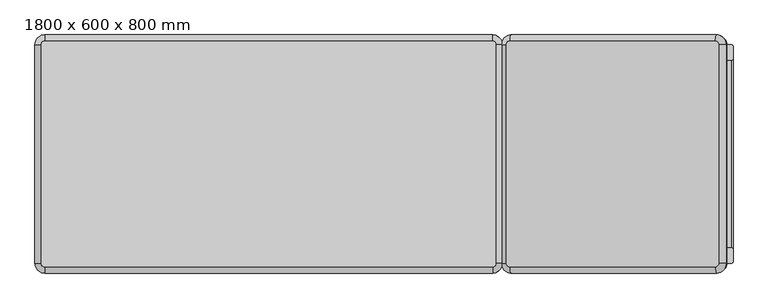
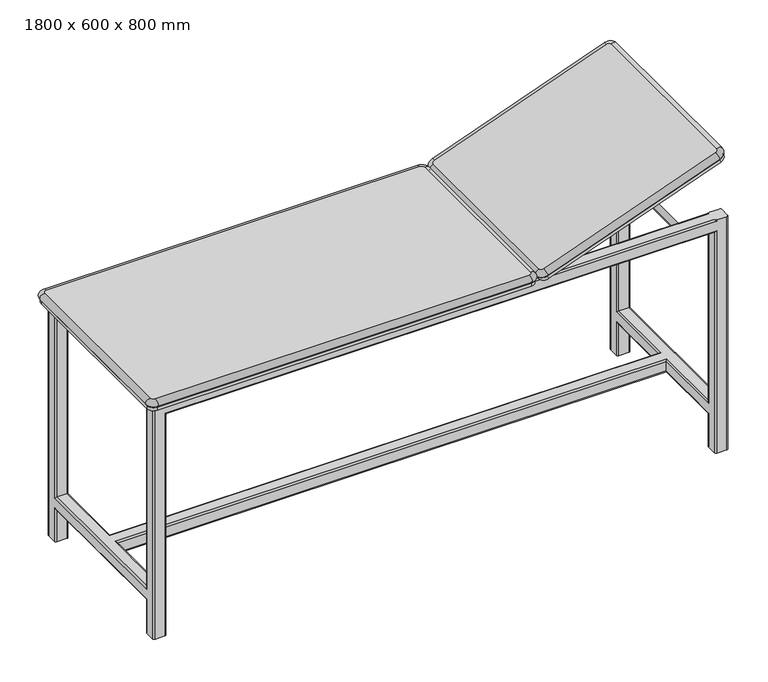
"""IFC4 building model written with IfcOpenShell, lengths in millimetres: furniture geometry, Table d'examen : 1800 x 600 x 800 mm."""

from ifc_helpers import new_model, si_unit, point, frame, frame_2d, origin, place, context, project, spatial, polyline, circle_curve, ellipse_curve, trimmed, segment, composite_curve, outline, extrude, source, transform, mapped, element, save
from ifc_brep_helpers import plane_surface, cylinder_surface, revolved_surface, extruded_surface, advanced_brep


def furniture_1800_x_600_x_800_mm_1ba1c7d4(model_context):
    return source(origin(), model_context, "Body", "SolidModel", [
        advanced_brep(
        [(919.7003264, -20.0, 770.0), (889.7003264, -20.0, 770.0), (884.7003264, -25.0, 770.0), (-795.2996736, -25.0, 770.0), (-800.2996736, -20.0, 770.0), (-830.2996736, -20.0, 770.0), (-835.2996736, -25.0, 770.0), (-835.2996736, -55.0, 770.0), (-830.2996736, -60.0, 770.0), (-800.2996736, -60.0, 770.0), (-795.2996736, -55.0, 770.0), (884.7003264, -55.0, 770.0), (889.7003264, -60.0, 770.0), (919.7003264, -60.0, 770.0), (924.7003264, -55.0, 770.0), (924.7003264, -25.0, 770.0), (919.7003264, -580.0, 770.0), (924.7003264, -575.0, 770.0), (924.7003264, -545.0, 770.0), (919.7003264, -540.0, 770.0), (889.7003264, -540.0, 770.0), (884.7003264, -545.0, 770.0), (-795.2996736, -545.0, 770.0), (-800.2996736, -540.0, 770.0), (-830.2996736, -540.0, 770.0), (-835.2996736, -545.0, 770.0), (-835.2996736, -575.0, 770.0), (-830.2996736, -580.0, 770.0), (-800.2996736, -580.0, 770.0), (-795.2996736, -575.0, 770.0), (884.7003264, -575.0, 770.0), (889.7003264, -580.0, 770.0), (-800.2996736, -20.0, 15.0), (-795.2996736, -25.0, 15.0), (-795.2996736, -55.0, 15.0), (-800.2996736, -60.0, 15.0), (-830.2996736, -60.0, 15.0), (-835.2996736, -55.0, 15.0), (-835.2996736, -25.0, 15.0), (-830.2996736, -20.0, 15.0), (919.7003264, -20.0, 15.0), (924.7003264, -25.0, 15.0), (924.7003264, -55.0, 15.0), (919.7003264, -60.0, 15.0), (889.7003264, -60.0, 15.0), (884.7003264, -55.0, 15.0), (884.7003264, -25.0, 15.0), (889.7003264, -20.0, 15.0), (919.7003264, -580.0, 15.0), (889.7003264, -580.0, 15.0), (884.7003264, -575.0, 15.0), (884.7003264, -545.0, 15.0), (889.7003264, -540.0, 15.0), (919.7003264, -540.0, 15.0), (924.7003264, -545.0, 15.0), (924.7003264, -575.0, 15.0), (-800.2996736, -580.0, 15.0), (-830.2996736, -580.0, 15.0), (-835.2996736, -575.0, 15.0), (-835.2996736, -545.0, 15.0), (-830.2996736, -540.0, 15.0), (-800.2996736, -540.0, 15.0), (-795.2996736, -545.0, 15.0), (-795.2996736, -575.0, 15.0), (-800.2996736, -20.0, 765.0), (889.7003264, -20.0, 765.0), (889.7003264, -20.0, 735.0), (-800.2996736, -20.0, 735.0), (-835.2996736, -55.0, 125.0), (-835.2996736, -545.0, 125.0), (-835.2996736, -545.0, 155.0), (-835.2996736, -55.0, 155.0), (-830.2996736, -60.0, 160.0), (-830.2996736, -60.0, 120.0), (-800.2996736, -60.0, 160.0), (-800.2996736, -60.0, 735.0), (889.7003264, -60.0, 735.0), (889.7003264, -60.0, 160.0), (919.7003264, -60.0, 160.0), (889.7003264, -60.0, 765.0), (-800.2996736, -60.0, 765.0), (-800.2996736, -60.0, 120.0), (919.7003264, -60.0, 120.0), (889.7003264, -60.0, 120.0), (-795.2996736, -55.0, 125.0), (-795.2996736, -55.0, 155.0), (-795.2996736, -55.0, 730.0), (-795.2996736, -25.0, 730.0), (-795.2996736, -280.0, 155.0), (-795.2996736, -280.0, 125.0), (-795.2996736, -545.0, 125.0), (-795.2996736, -320.0, 125.0), (-795.2996736, -320.0, 155.0), (-795.2996736, -545.0, 155.0), (-795.2996736, -545.0, 730.0), (-795.2996736, -575.0, 730.0), (884.7003264, -25.0, 730.0), (884.7003264, -55.0, 125.0), (884.7003264, -280.0, 125.0), (884.7003264, -280.0, 155.0), (884.7003264, -55.0, 155.0), (884.7003264, -55.0, 730.0), (884.7003264, -575.0, 730.0), (884.7003264, -545.0, 730.0), (884.7003264, -545.0, 155.0), (884.7003264, -320.0, 155.0), (884.7003264, -320.0, 125.0), (884.7003264, -545.0, 125.0), (924.7003264, -55.0, 155.0), (924.7003264, -55.0, 125.0), (924.7003264, -545.0, 155.0), (924.7003264, -545.0, 125.0), (919.7003264, -540.0, 160.0), (919.7003264, -540.0, 120.0), (889.7003264, -540.0, 160.0), (889.7003264, -540.0, 735.0), (-800.2996736, -540.0, 735.0), (-800.2996736, -540.0, 160.0), (-830.2996736, -540.0, 160.0), (-800.2996736, -540.0, 765.0), (889.7003264, -540.0, 765.0), (889.7003264, -540.0, 120.0), (-830.2996736, -540.0, 120.0), (-800.2996736, -540.0, 120.0), (889.7003264, -580.0, 765.0), (889.7003264, -580.0, 735.0), (-800.2996736, -580.0, 765.0), (-800.2996736, -580.0, 735.0), (-800.2996736, -285.0, 120.0), (889.7003264, -285.0, 120.0), (889.7003264, -315.0, 120.0), (-800.2996736, -315.0, 120.0), (-800.2996736, -315.0, 160.0), (889.7003264, -315.0, 160.0), (889.7003264, -285.0, 160.0), (-800.2996736, -285.0, 160.0)],
        [
            (0, 1),
            (1, 2, circle_curve(frame((889.7003264, -25.0, 770.0), z_axis=(0.0, 0.0, 1.0), x_axis=(-1.0, 0.0, 0.0)), 5.0)),
            (2, 3),
            (3, 4, circle_curve(frame((-800.2996736, -25.0, 770.0), z_axis=(0.0, 0.0, 1.0), x_axis=(-1.0, 0.0, 0.0)), 5.0)),
            (4, 5),
            (5, 6, circle_curve(frame((-830.2996736, -25.0, 770.0), z_axis=(0.0, 0.0, 1.0), x_axis=(-1.0, 0.0, 0.0)), 5.0)),
            (6, 7),
            (7, 8, circle_curve(frame((-830.2996736, -55.0, 770.0), z_axis=(0.0, 0.0, 1.0), x_axis=(-1.0, 0.0, 0.0)), 5.0)),
            (8, 9),
            (9, 10, circle_curve(frame((-800.2996736, -55.0, 770.0), z_axis=(0.0, 0.0, 1.0), x_axis=(-1.0, 0.0, 0.0)), 5.0)),
            (10, 11),
            (11, 12, circle_curve(frame((889.7003264, -55.0, 770.0), z_axis=(0.0, 0.0, 1.0), x_axis=(-1.0, 0.0, 0.0)), 5.0)),
            (12, 13),
            (13, 14, circle_curve(frame((919.7003264, -55.0, 770.0), z_axis=(0.0, 0.0, 1.0), x_axis=(-1.0, 0.0, 0.0)), 5.0)),
            (14, 15),
            (15, 0, circle_curve(frame((919.7003264, -25.0, 770.0), z_axis=(0.0, 0.0, 1.0), x_axis=(-1.0, 0.0, 0.0)), 5.0)),
            (16, 17, circle_curve(frame((919.7003264, -575.0, 770.0), z_axis=(0.0, 0.0, 1.0), x_axis=(-1.0, 0.0, 0.0)), 5.0)),
            (17, 18),
            (18, 19, circle_curve(frame((919.7003264, -545.0, 770.0), z_axis=(0.0, 0.0, 1.0), x_axis=(-1.0, 0.0, 0.0)), 5.0)),
            (19, 20),
            (20, 21, circle_curve(frame((889.7003264, -545.0, 770.0), z_axis=(0.0, 0.0, 1.0), x_axis=(-1.0, 0.0, 0.0)), 5.0)),
            (21, 22),
            (22, 23, circle_curve(frame((-800.2996736, -545.0, 770.0), z_axis=(0.0, 0.0, 1.0), x_axis=(-1.0, 0.0, 0.0)), 5.0)),
            (23, 24),
            (24, 25, circle_curve(frame((-830.2996736, -545.0, 770.0), z_axis=(0.0, 0.0, 1.0), x_axis=(-1.0, 0.0, 0.0)), 5.0)),
            (25, 26),
            (26, 27, circle_curve(frame((-830.2996736, -575.0, 770.0), z_axis=(0.0, 0.0, 1.0), x_axis=(-1.0, 0.0, 0.0)), 5.0)),
            (27, 28),
            (28, 29, circle_curve(frame((-800.2996736, -575.0, 770.0), z_axis=(0.0, 0.0, 1.0), x_axis=(-1.0, 0.0, 0.0)), 5.0)),
            (29, 30),
            (30, 31, circle_curve(frame((889.7003264, -575.0, 770.0), z_axis=(0.0, 0.0, 1.0), x_axis=(-1.0, 0.0, 0.0)), 5.0)),
            (31, 16),
            (32, 33, circle_curve(frame((-800.2996736, -25.0, 15.0), z_axis=(0.0, 0.0, -1.0), x_axis=(-1.0, 0.0, 0.0)), 5.0)),
            (33, 34),
            (34, 35, circle_curve(frame((-800.2996736, -55.0, 15.0), z_axis=(0.0, 0.0, -1.0), x_axis=(-1.0, 0.0, 0.0)), 5.0)),
            (35, 36),
            (36, 37, circle_curve(frame((-830.2996736, -55.0, 15.0), z_axis=(0.0, 0.0, -1.0), x_axis=(-1.0, 0.0, 0.0)), 5.0)),
            (37, 38),
            (38, 39, circle_curve(frame((-830.2996736, -25.0, 15.0), z_axis=(0.0, 0.0, -1.0), x_axis=(-1.0, 0.0, 0.0)), 5.0)),
            (39, 32),
            (40, 41, circle_curve(frame((919.7003264, -25.0, 15.0), z_axis=(0.0, 0.0, -1.0), x_axis=(-1.0, 0.0, 0.0)), 5.0)),
            (41, 42),
            (42, 43, circle_curve(frame((919.7003264, -55.0, 15.0), z_axis=(0.0, 0.0, -1.0), x_axis=(-1.0, 0.0, 0.0)), 5.0)),
            (43, 44),
            (44, 45, circle_curve(frame((889.7003264, -55.0, 15.0), z_axis=(0.0, 0.0, -1.0), x_axis=(-1.0, 0.0, 0.0)), 5.0)),
            (45, 46),
            (46, 47, circle_curve(frame((889.7003264, -25.0, 15.0), z_axis=(0.0, 0.0, -1.0), x_axis=(-1.0, 0.0, 0.0)), 5.0)),
            (47, 40),
            (48, 49),
            (49, 50, circle_curve(frame((889.7003264, -575.0, 15.0), z_axis=(0.0, 0.0, -1.0), x_axis=(-1.0, 0.0, 0.0)), 5.0)),
            (50, 51),
            (51, 52, circle_curve(frame((889.7003264, -545.0, 15.0), z_axis=(0.0, 0.0, -1.0), x_axis=(-1.0, 0.0, 0.0)), 5.0)),
            (52, 53),
            (53, 54, circle_curve(frame((919.7003264, -545.0, 15.0), z_axis=(0.0, 0.0, -1.0), x_axis=(-1.0, 0.0, 0.0)), 5.0)),
            (54, 55),
            (55, 48, circle_curve(frame((919.7003264, -575.0, 15.0), z_axis=(0.0, 0.0, -1.0), x_axis=(-1.0, 0.0, 0.0)), 5.0)),
            (56, 57),
            (57, 58, circle_curve(frame((-830.2996736, -575.0, 15.0), z_axis=(0.0, 0.0, -1.0), x_axis=(-1.0, 0.0, 0.0)), 5.0)),
            (58, 59),
            (59, 60, circle_curve(frame((-830.2996736, -545.0, 15.0), z_axis=(0.0, 0.0, -1.0), x_axis=(-1.0, 0.0, 0.0)), 5.0)),
            (60, 61),
            (61, 62, circle_curve(frame((-800.2996736, -545.0, 15.0), z_axis=(0.0, 0.0, -1.0), x_axis=(-1.0, 0.0, 0.0)), 5.0)),
            (62, 63),
            (63, 56, circle_curve(frame((-800.2996736, -575.0, 15.0), z_axis=(0.0, 0.0, -1.0), x_axis=(-1.0, 0.0, 0.0)), 5.0)),
            (4, 64),
            (64, 65),
            (65, 1),
            (0, 40),
            (47, 66),
            (66, 67),
            (67, 32),
            (39, 5),
            (38, 6),
            (37, 68),
            (68, 69),
            (69, 59),
            (58, 26),
            (25, 70),
            (70, 71),
            (71, 7),
            (71, 72, ellipse_curve(frame((-830.2996736, -55.0, 155.0), z_axis=(0.0, 0.7071067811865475, 0.7071067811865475), x_axis=(0.0, -0.7071067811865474, 0.7071067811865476)), 7.0710678, 5.0)),
            (72, 8),
            (36, 73),
            (73, 68, ellipse_curve(frame((-830.2996736, -55.0, 125.0), z_axis=(0.0, 0.7071067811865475, -0.7071067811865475), x_axis=(0.0, 0.7071067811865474, 0.7071067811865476)), 7.0710678, 5.0)),
            (72, 74),
            (74, 75),
            (75, 76),
            (76, 77),
            (77, 78),
            (78, 13),
            (12, 79),
            (79, 80),
            (80, 9),
            (35, 81),
            (81, 73),
            (43, 82),
            (82, 83),
            (83, 44),
            (80, 10, ellipse_curve(frame((-800.2996736, -55.0, 765.0), z_axis=(-0.7071067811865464, 0.0, 0.7071067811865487), x_axis=(0.7071067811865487, 0.0, 0.7071067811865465)), 7.0710678, 5.0)),
            (34, 84),
            (84, 81, ellipse_curve(frame((-800.2996736, -55.0, 125.0), z_axis=(0.0, 0.7071067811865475, -0.7071067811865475), x_axis=(0.0, 0.7071067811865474, 0.7071067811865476)), 7.0710678, 5.0)),
            (74, 85, ellipse_curve(frame((-800.2996736, -55.0, 155.0), z_axis=(0.0, 0.7071067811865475, 0.7071067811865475), x_axis=(0.0, -0.7071067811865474, 0.7071067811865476)), 7.0710678, 5.0)),
            (85, 86),
            (86, 75, ellipse_curve(frame((-800.2996736, -55.0, 735.0), z_axis=(-0.7071067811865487, 0.0, -0.7071067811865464), x_axis=(-0.7071067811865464, 0.0, 0.7071067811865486)), 7.0710678, 5.0)),
            (33, 87),
            (87, 86),
            (85, 88),
            (88, 89),
            (89, 84),
            (62, 90),
            (90, 91),
            (91, 92),
            (92, 93),
            (93, 94),
            (94, 95),
            (95, 63),
            (3, 64, ellipse_curve(frame((-800.2996736, -25.0, 765.0), z_axis=(-0.7071067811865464, 0.0, 0.7071067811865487), x_axis=(0.7071067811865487, 0.0, 0.7071067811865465)), 7.0710678, 5.0)),
            (67, 87, ellipse_curve(frame((-800.2996736, -25.0, 735.0), z_axis=(-0.7071067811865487, 0.0, -0.7071067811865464), x_axis=(-0.7071067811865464, 0.0, 0.7071067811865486)), 7.0710678, 5.0)),
            (65, 2, ellipse_curve(frame((889.7003264, -25.0, 765.0), z_axis=(0.7071067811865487, 0.0, 0.7071067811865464), x_axis=(-0.7071067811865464, 0.0, 0.7071067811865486)), 7.0710678, 5.0)),
            (46, 96),
            (96, 66, ellipse_curve(frame((889.7003264, -25.0, 735.0), z_axis=(0.7071067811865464, 0.0, -0.7071067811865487), x_axis=(0.7071067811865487, 0.0, 0.7071067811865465)), 7.0710678, 5.0)),
            (45, 97),
            (97, 98),
            (98, 99),
            (99, 100),
            (100, 101),
            (101, 96),
            (50, 102),
            (102, 103),
            (103, 104),
            (104, 105),
            (105, 106),
            (106, 107),
            (107, 51),
            (11, 79, ellipse_curve(frame((889.7003264, -55.0, 765.0), z_axis=(0.7071067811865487, 0.0, 0.7071067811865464), x_axis=(-0.7071067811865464, 0.0, 0.7071067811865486)), 7.0710678, 5.0)),
            (83, 97, ellipse_curve(frame((889.7003264, -55.0, 125.0), z_axis=(0.0, 0.7071067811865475, -0.7071067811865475), x_axis=(0.0, 0.7071067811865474, 0.7071067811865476)), 7.0710678, 5.0)),
            (100, 77, ellipse_curve(frame((889.7003264, -55.0, 155.0), z_axis=(0.0, 0.7071067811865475, 0.7071067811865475), x_axis=(0.0, -0.7071067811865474, 0.7071067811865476)), 7.0710678, 5.0)),
            (76, 101, ellipse_curve(frame((889.7003264, -55.0, 735.0), z_axis=(0.7071067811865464, 0.0, -0.7071067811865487), x_axis=(0.7071067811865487, 0.0, 0.7071067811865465)), 7.0710678, 5.0)),
            (78, 108, ellipse_curve(frame((919.7003264, -55.0, 155.0), z_axis=(0.0, 0.7071067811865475, 0.7071067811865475), x_axis=(0.0, -0.7071067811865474, 0.7071067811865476)), 7.0710678, 5.0)),
            (108, 14),
            (42, 109),
            (109, 82, ellipse_curve(frame((919.7003264, -55.0, 125.0), z_axis=(0.0, 0.7071067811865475, -0.7071067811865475), x_axis=(0.0, 0.7071067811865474, 0.7071067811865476)), 7.0710678, 5.0)),
            (108, 110),
            (110, 18),
            (17, 55),
            (54, 111),
            (111, 109),
            (41, 15),
            (16, 48),
            (110, 112, ellipse_curve(frame((919.7003264, -545.0, 155.0), z_axis=(0.0, -0.7071067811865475, 0.7071067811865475), x_axis=(0.0, 0.7071067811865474, 0.7071067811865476)), 7.0710678, 5.0)),
            (112, 19),
            (53, 113),
            (113, 111, ellipse_curve(frame((919.7003264, -545.0, 125.0), z_axis=(0.0, -0.7071067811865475, -0.7071067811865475), x_axis=(0.0, -0.7071067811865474, 0.7071067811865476)), 7.0710678, 5.0)),
            (112, 114),
            (114, 115),
            (115, 116),
            (116, 117),
            (117, 118),
            (118, 24),
            (23, 119),
            (119, 120),
            (120, 20),
            (52, 121),
            (121, 113),
            (60, 122),
            (122, 123),
            (123, 61),
            (120, 21, ellipse_curve(frame((889.7003264, -545.0, 765.0), z_axis=(0.7071067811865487, 0.0, 0.7071067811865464), x_axis=(-0.7071067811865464, 0.0, 0.7071067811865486)), 7.0710678, 5.0)),
            (107, 121, ellipse_curve(frame((889.7003264, -545.0, 125.0), z_axis=(0.0, -0.7071067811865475, -0.7071067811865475), x_axis=(0.0, -0.7071067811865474, 0.7071067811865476)), 7.0710678, 5.0)),
            (114, 104, ellipse_curve(frame((889.7003264, -545.0, 155.0), z_axis=(0.0, -0.7071067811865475, 0.7071067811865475), x_axis=(0.0, 0.7071067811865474, 0.7071067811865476)), 7.0710678, 5.0)),
            (103, 115, ellipse_curve(frame((889.7003264, -545.0, 735.0), z_axis=(0.7071067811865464, 0.0, -0.7071067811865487), x_axis=(0.7071067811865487, 0.0, 0.7071067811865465)), 7.0710678, 5.0)),
            (30, 124, ellipse_curve(frame((889.7003264, -575.0, 765.0), z_axis=(0.7071067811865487, 0.0, 0.7071067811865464), x_axis=(-0.7071067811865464, 0.0, 0.7071067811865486)), 7.0710678, 5.0)),
            (124, 31),
            (49, 125),
            (125, 102, ellipse_curve(frame((889.7003264, -575.0, 735.0), z_axis=(0.7071067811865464, 0.0, -0.7071067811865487), x_axis=(0.7071067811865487, 0.0, 0.7071067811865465)), 7.0710678, 5.0)),
            (124, 126),
            (126, 28),
            (27, 57),
            (56, 127),
            (127, 125),
            (126, 29, ellipse_curve(frame((-800.2996736, -575.0, 765.0), z_axis=(-0.7071067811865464, 0.0, 0.7071067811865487), x_axis=(0.7071067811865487, 0.0, 0.7071067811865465)), 7.0710678, 5.0)),
            (95, 127, ellipse_curve(frame((-800.2996736, -575.0, 735.0), z_axis=(-0.7071067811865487, 0.0, -0.7071067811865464), x_axis=(-0.7071067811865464, 0.0, 0.7071067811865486)), 7.0710678, 5.0)),
            (22, 119, ellipse_curve(frame((-800.2996736, -545.0, 765.0), z_axis=(-0.7071067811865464, 0.0, 0.7071067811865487), x_axis=(0.7071067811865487, 0.0, 0.7071067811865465)), 7.0710678, 5.0)),
            (123, 90, ellipse_curve(frame((-800.2996736, -545.0, 125.0), z_axis=(0.0, -0.7071067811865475, -0.7071067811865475), x_axis=(0.0, -0.7071067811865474, 0.7071067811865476)), 7.0710678, 5.0)),
            (93, 117, ellipse_curve(frame((-800.2996736, -545.0, 155.0), z_axis=(0.0, -0.7071067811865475, 0.7071067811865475), x_axis=(0.0, 0.7071067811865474, 0.7071067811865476)), 7.0710678, 5.0)),
            (116, 94, ellipse_curve(frame((-800.2996736, -545.0, 735.0), z_axis=(-0.7071067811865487, 0.0, -0.7071067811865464), x_axis=(-0.7071067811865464, 0.0, 0.7071067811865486)), 7.0710678, 5.0)),
            (118, 70, ellipse_curve(frame((-830.2996736, -545.0, 155.0), z_axis=(0.0, -0.7071067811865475, 0.7071067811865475), x_axis=(0.0, 0.7071067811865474, 0.7071067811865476)), 7.0710678, 5.0)),
            (69, 122, ellipse_curve(frame((-830.2996736, -545.0, 125.0), z_axis=(0.0, -0.7071067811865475, -0.7071067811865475), x_axis=(0.0, -0.7071067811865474, 0.7071067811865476)), 7.0710678, 5.0)),
            (122, 73),
            (81, 128),
            (128, 129),
            (129, 83),
            (82, 113),
            (121, 130),
            (130, 131),
            (131, 123),
            (118, 72),
            (117, 132),
            (132, 133),
            (133, 114),
            (112, 78),
            (77, 134),
            (134, 135),
            (135, 74),
            (135, 88, ellipse_curve(frame((-800.2996736, -285.0, 155.0), z_axis=(-0.7071067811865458, 0.707106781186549, 0.0), x_axis=(0.7071067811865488, 0.7071067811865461, 0.0)), 7.0710678, 5.0)),
            (92, 132, ellipse_curve(frame((-800.2996736, -315.0, 155.0), z_axis=(-0.7071067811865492, -0.7071067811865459, 0.0), x_axis=(-0.7071067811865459, 0.707106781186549, 0.0)), 7.0710678, 5.0)),
            (89, 128, ellipse_curve(frame((-800.2996736, -285.0, 125.0), z_axis=(-0.7071067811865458, 0.707106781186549, 0.0), x_axis=(0.7071067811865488, 0.7071067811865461, 0.0)), 7.0710678, 5.0)),
            (131, 91, ellipse_curve(frame((-800.2996736, -315.0, 125.0), z_axis=(-0.7071067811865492, -0.7071067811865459, 0.0), x_axis=(-0.7071067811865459, 0.707106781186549, 0.0)), 7.0710678, 5.0)),
            (129, 98, ellipse_curve(frame((889.7003264, -285.0, 125.0), z_axis=(0.7071067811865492, 0.7071067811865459, 0.0), x_axis=(-0.7071067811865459, 0.707106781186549, 0.0)), 7.0710678, 5.0)),
            (106, 130, ellipse_curve(frame((889.7003264, -315.0, 125.0), z_axis=(0.7071067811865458, -0.707106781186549, 0.0), x_axis=(0.7071067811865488, 0.7071067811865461, 0.0)), 7.0710678, 5.0)),
            (99, 134, ellipse_curve(frame((889.7003264, -285.0, 155.0), z_axis=(0.7071067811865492, 0.7071067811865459, 0.0), x_axis=(-0.7071067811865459, 0.707106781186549, 0.0)), 7.0710678, 5.0)),
            (133, 105, ellipse_curve(frame((889.7003264, -315.0, 155.0), z_axis=(0.7071067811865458, -0.707106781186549, 0.0), x_axis=(0.7071067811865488, 0.7071067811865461, 0.0)), 7.0710678, 5.0)),
            (99, 88),
            (98, 89),
            (106, 91),
            (105, 92),
            (103, 94),
            (102, 95),
            (96, 87),
            (101, 86),
        ],
        [
            plane_surface(frame((-830.2996736, -20.0, 770.0), z_axis=(0.0, 0.0, 1.0), x_axis=(-1.0, 0.0, 0.0))),
            plane_surface(frame((-830.2996736, -20.0, 15.0), z_axis=(0.0, 0.0, -1.0), x_axis=(1.0, 0.0, 0.0))),
            plane_surface(frame((-800.2996736, -20.0, 770.0), z_axis=(0.0, 1.0, 0.0), x_axis=(0.0, 0.0, -1.0))),
            cylinder_surface(frame((-830.2996736, -25.0, 15.0), z_axis=(0.0, 0.0, 1.0), x_axis=(-1.0, 0.0, 0.0)), 5.0),
            plane_surface(frame((-835.2996736, -25.0, 770.0), z_axis=(-1.0, 0.0, 0.0), x_axis=(0.0, 0.0, -1.0))),
            cylinder_surface(frame((-830.2996736, -55.0, 15.0), z_axis=(0.0, 0.0, 1.0), x_axis=(-1.0, 0.0, 0.0)), 5.0),
            plane_surface(frame((-830.2996736, -60.0, 770.0), z_axis=(0.0, -1.0, 0.0), x_axis=(0.0, 0.0, -1.0))),
            cylinder_surface(frame((-800.2996736, -55.0, 15.0), z_axis=(0.0, 0.0, 1.0), x_axis=(-1.0, 0.0, 0.0)), 5.0),
            plane_surface(frame((-795.2996736, -55.0, 770.0), z_axis=(1.0, 0.0, 0.0), x_axis=(0.0, 0.0, -1.0))),
            cylinder_surface(frame((-800.2996736, -25.0, 15.0), z_axis=(0.0, 0.0, 1.0), x_axis=(-1.0, 0.0, 0.0)), 5.0),
            cylinder_surface(frame((889.7003264, -25.0, 15.0), z_axis=(0.0, 0.0, 1.0), x_axis=(-1.0, 0.0, 0.0)), 5.0),
            plane_surface(frame((884.7003264, -25.0, 770.0), z_axis=(-1.0, 0.0, 0.0), x_axis=(0.0, 0.0, -1.0))),
            cylinder_surface(frame((889.7003264, -55.0, 15.0), z_axis=(0.0, 0.0, 1.0), x_axis=(-1.0, 0.0, 0.0)), 5.0),
            cylinder_surface(frame((919.7003264, -55.0, 15.0), z_axis=(0.0, 0.0, 1.0), x_axis=(-1.0, 0.0, 0.0)), 5.0),
            plane_surface(frame((924.7003264, -55.0, 770.0), z_axis=(1.0, 0.0, 0.0), x_axis=(0.0, 0.0, -1.0))),
            cylinder_surface(frame((919.7003264, -25.0, 15.0), z_axis=(0.0, 0.0, 1.0), x_axis=(-1.0, 0.0, 0.0)), 5.0),
            cylinder_surface(frame((919.7003264, -575.0, 15.0), z_axis=(0.0, 0.0, 1.0), x_axis=(-1.0, 0.0, 0.0)), 5.0),
            cylinder_surface(frame((919.7003264, -545.0, 15.0), z_axis=(0.0, 0.0, 1.0), x_axis=(-1.0, 0.0, 0.0)), 5.0),
            plane_surface(frame((919.7003264, -540.0, 770.0), z_axis=(0.0, 1.0, 0.0), x_axis=(0.0, 0.0, -1.0))),
            cylinder_surface(frame((889.7003264, -545.0, 15.0), z_axis=(0.0, 0.0, 1.0), x_axis=(-1.0, 0.0, 0.0)), 5.0),
            cylinder_surface(frame((889.7003264, -575.0, 15.0), z_axis=(0.0, 0.0, 1.0), x_axis=(-1.0, 0.0, 0.0)), 5.0),
            plane_surface(frame((889.7003264, -580.0, 770.0), z_axis=(0.0, -1.0, 0.0), x_axis=(0.0, 0.0, -1.0))),
            cylinder_surface(frame((-800.2996736, -575.0, 15.0), z_axis=(0.0, 0.0, 1.0), x_axis=(-1.0, 0.0, 0.0)), 5.0),
            cylinder_surface(frame((-800.2996736, -545.0, 15.0), z_axis=(0.0, 0.0, 1.0), x_axis=(-1.0, 0.0, 0.0)), 5.0),
            cylinder_surface(frame((-830.2996736, -545.0, 15.0), z_axis=(0.0, 0.0, 1.0), x_axis=(-1.0, 0.0, 0.0)), 5.0),
            cylinder_surface(frame((-830.2996736, -575.0, 15.0), z_axis=(0.0, 0.0, 1.0), x_axis=(-1.0, 0.0, 0.0)), 5.0),
            plane_surface(frame((-800.2996736, -50.0, 120.0), z_axis=(0.0, 0.0, -1.0), x_axis=(0.0, -1.0, 0.0))),
            cylinder_surface(frame((-830.2996736, -550.0, 125.0), z_axis=(0.0, 1.0, 0.0), x_axis=(-1.0, 0.0, 0.0)), 5.0),
            cylinder_surface(frame((-830.2996736, -550.0, 155.0), z_axis=(0.0, 1.0, 0.0), x_axis=(-1.0, 0.0, 0.0)), 5.0),
            plane_surface(frame((-830.2996736, -50.0, 160.0), z_axis=(0.0, 0.0, 1.0), x_axis=(0.0, -1.0, 0.0))),
            cylinder_surface(frame((-800.2996736, -550.0, 155.0), z_axis=(0.0, 1.0, 0.0), x_axis=(-1.0, 0.0, 0.0)), 5.0),
            cylinder_surface(frame((-800.2996736, -550.0, 125.0), z_axis=(0.0, 1.0, 0.0), x_axis=(-1.0, 0.0, 0.0)), 5.0),
            cylinder_surface(frame((889.7003264, -50.0, 125.0), z_axis=(0.0, 1.0, 0.0), x_axis=(-1.0, 0.0, 0.0)), 5.0),
            cylinder_surface(frame((889.7003264, -50.0, 155.0), z_axis=(0.0, 1.0, 0.0), x_axis=(-1.0, 0.0, 0.0)), 5.0),
            cylinder_surface(frame((919.7003264, -50.0, 155.0), z_axis=(0.0, 1.0, 0.0), x_axis=(-1.0, 0.0, 0.0)), 5.0),
            cylinder_surface(frame((919.7003264, -50.0, 125.0), z_axis=(0.0, 1.0, 0.0), x_axis=(-1.0, 0.0, 0.0)), 5.0),
            cylinder_surface(frame((894.7003264, -285.0, 155.0), z_axis=(-1.0, 0.0, 0.0), x_axis=(0.0, -1.0, 0.0)), 5.0),
            plane_surface(frame((-805.2996736, -280.0, 155.0), z_axis=(0.0, 1.0, 0.0), x_axis=(1.0, 0.0, 0.0))),
            cylinder_surface(frame((894.7003264, -285.0, 125.0), z_axis=(-1.0, 0.0, 0.0), x_axis=(0.0, -1.0, 0.0)), 5.0),
            cylinder_surface(frame((894.7003264, -315.0, 125.0), z_axis=(-1.0, 0.0, 0.0), x_axis=(0.0, -1.0, 0.0)), 5.0),
            plane_surface(frame((-805.2996736, -320.0, 125.0), z_axis=(0.0, -1.0, 0.0), x_axis=(1.0, 0.0, 0.0))),
            cylinder_surface(frame((894.7003264, -315.0, 155.0), z_axis=(-1.0, 0.0, 0.0), x_axis=(0.0, -1.0, 0.0)), 5.0),
            cylinder_surface(frame((-805.2996736, -545.0, 765.0), z_axis=(-1.0, 0.0, 0.0), x_axis=(0.0, -1.0, 0.0)), 5.0),
            cylinder_surface(frame((-805.2996736, -545.0, 735.0), z_axis=(-1.0, 0.0, 0.0), x_axis=(0.0, -1.0, 0.0)), 5.0),
            plane_surface(frame((-805.2996736, -545.0, 730.0), z_axis=(0.0, 0.0, -1.0), x_axis=(1.0, 0.0, 0.0))),
            cylinder_surface(frame((-805.2996736, -575.0, 735.0), z_axis=(-1.0, 0.0, 0.0), x_axis=(0.0, -1.0, 0.0)), 5.0),
            cylinder_surface(frame((-805.2996736, -575.0, 765.0), z_axis=(-1.0, 0.0, 0.0), x_axis=(0.0, -1.0, 0.0)), 5.0),
            cylinder_surface(frame((-805.2996736, -25.0, 765.0), z_axis=(-1.0, 0.0, 0.0), x_axis=(0.0, -1.0, 0.0)), 5.0),
            cylinder_surface(frame((-805.2996736, -25.0, 735.0), z_axis=(-1.0, 0.0, 0.0), x_axis=(0.0, -1.0, 0.0)), 5.0),
            plane_surface(frame((-805.2996736, -25.0, 730.0), z_axis=(0.0, 0.0, -1.0), x_axis=(1.0, 0.0, 0.0))),
            cylinder_surface(frame((-805.2996736, -55.0, 735.0), z_axis=(-1.0, 0.0, 0.0), x_axis=(0.0, -1.0, 0.0)), 5.0),
            cylinder_surface(frame((-805.2996736, -55.0, 765.0), z_axis=(-1.0, 0.0, 0.0), x_axis=(0.0, -1.0, 0.0)), 5.0),
        ],
        [
            (0, [[1, 2, 3, 4, 5, 6, 7, 8, 9, 10, 11, 12, 13, 14, 15, 16]]),
            (0, [[17, 18, 19, 20, 21, 22, 23, 24, 25, 26, 27, 28, 29, 30, 31, 32]]),
            (1, [[33, 34, 35, 36, 37, 38, 39, 40]]),
            (1, [[41, 42, 43, 44, 45, 46, 47, 48]]),
            (1, [[49, 50, 51, 52, 53, 54, 55, 56]]),
            (1, [[57, 58, 59, 60, 61, 62, 63, 64]]),
            (2, [[-5, 65, 66, 67, -1, 68, -48, 69, 70, 71, -40, 72]]),
            (3, [[-6, -72, -39, 73]]),
            (4, [[-7, -73, -38, 74, 75, 76, -59, 77, -26, 78, 79, 80]]),
            (5, [[-8, -80, 81, 82]]),
            (5, [[-37, 83, 84, -74]]),
            (6, [[-9, -82, 85, 86, 87, 88, 89, 90, -13, 91, 92, 93]]),
            (6, [[-36, 94, 95, -83]]),
            (6, [[-44, 96, 97, 98]]),
            (7, [[-10, -93, 99]]),
            (7, [[-35, 100, 101, -94]]),
            (7, [[102, 103, 104, -86]]),
            (8, [[-34, 105, 106, -103, 107, 108, 109, -100]]),
            (8, [[-63, 110, 111, 112, 113, 114, 115, 116]]),
            (9, [[-4, 117, -65]]),
            (9, [[-33, -71, 118, -105]]),
            (10, [[-2, -67, 119]]),
            (10, [[-47, 120, 121, -69]]),
            (11, [[-46, 122, 123, 124, 125, 126, 127, -120]]),
            (11, [[-51, 128, 129, 130, 131, 132, 133, 134]]),
            (12, [[-12, 135, -91]]),
            (12, [[-45, -98, 136, -122]]),
            (12, [[137, -88, 138, -126]]),
            (13, [[-14, -90, 139, 140]]),
            (13, [[-43, 141, 142, -96]]),
            (14, [[-15, -140, 143, 144, -18, 145, -55, 146, 147, -141, -42, 148]]),
            (15, [[-16, -148, -41, -68]]),
            (16, [[-17, 149, -56, -145]]),
            (17, [[-19, -144, 150, 151]]),
            (17, [[-54, 152, 153, -146]]),
            (18, [[-20, -151, 154, 155, 156, 157, 158, 159, -24, 160, 161, 162]]),
            (18, [[-53, 163, 164, -152]]),
            (18, [[-61, 165, 166, 167]]),
            (19, [[-21, -162, 168]]),
            (19, [[-52, -134, 169, -163]]),
            (19, [[170, -130, 171, -155]]),
            (20, [[-31, 172, 173]]),
            (20, [[-50, 174, 175, -128]]),
            (21, [[-32, -173, 176, 177, -28, 178, -57, 179, 180, -174, -49, -149]]),
            (22, [[-29, -177, 181]]),
            (22, [[-64, -116, 182, -179]]),
            (23, [[-23, 183, -160]]),
            (23, [[-62, -167, 184, -110]]),
            (23, [[185, -157, 186, -114]]),
            (24, [[-25, -159, 187, -78]]),
            (24, [[-60, -76, 188, -165]]),
            (25, [[-27, -77, -58, -178]]),
            (26, [[189, -95, 190, 191, 192, -97, 193, -164, 194, 195, 196, -166]]),
            (27, [[-189, -188, -75, -84]]),
            (28, [[197, -81, -79, -187]]),
            (29, [[-197, -158, 198, 199, 200, -154, 201, -89, 202, 203, 204, -85]]),
            (30, [[-102, -204, 205, -107]]),
            (30, [[-185, -113, 206, -198]]),
            (31, [[-101, -109, 207, -190]]),
            (31, [[-184, -196, 208, -111]]),
            (32, [[-136, -192, 209, -123]]),
            (32, [[-169, -133, 210, -194]]),
            (33, [[-137, -125, 211, -202]]),
            (33, [[-170, -200, 212, -131]]),
            (34, [[-143, -139, -201, -150]]),
            (35, [[-147, -153, -193, -142]]),
            (36, [[213, -205, -203, -211]]),
            (37, [[214, -108, -213, -124]]),
            (38, [[-214, -209, -191, -207]]),
            (39, [[215, -208, -195, -210]]),
            (40, [[-215, -132, 216, -112]]),
            (41, [[-216, -212, -199, -206]]),
            (42, [[-22, -168, -161, -183]]),
            (43, [[217, -186, -156, -171]]),
            (44, [[218, -115, -217, -129]]),
            (45, [[-218, -175, -180, -182]]),
            (46, [[-30, -181, -176, -172]]),
            (47, [[-3, -119, -66, -117]]),
            (48, [[-70, -121, 219, -118]]),
            (49, [[-219, -127, 220, -106]]),
            (50, [[-220, -138, -87, -104]]),
            (51, [[-11, -99, -92, -135]]),
        ],
    ),
        extrude(outline(composite_curve([segment(polyline([(897.4107953, 694.7586095), (888.779885, 671.0453784), (742.6120623, 785.2441974)]), True, "CONTINUOUS"), segment(trimmed(circle_curve(frame_2d((750.0, 794.7003264)), 12.0), [point((742.6120623, 785.2441974))], [point((757.3879377, 804.1564555))], False, "CARTESIAN"), True, "CONTINUOUS"), segment(polyline([(757.3879377, 804.1564555), (897.4107953, 694.7586095)]), True, "CONTINUOUS")], self_intersect=False)), frame((0.0, -302.0, 0.0), z_axis=(0.0, 1.0, 0.0), x_axis=(0.0, 0.0, 1.0)), (0.0, 0.0, 1.0), 4.0),
        advanced_brep(
        [(353.2335745, -10.0, 805.0311815), (360.0739774, -10.0, 786.2373291), (350.6770512, -20.0, 782.8171276), (343.8366483, -20.0, 801.6109801), (350.6770512, -580.0, 782.8171276), (343.8366483, -580.0, 801.6109801), (360.0739774, -590.0, 786.2373291), (353.2335745, -590.0, 805.0311815), (886.3018451, -590.0, 977.7686093), (879.4614422, -590.0, 996.5624618), (895.6987713, -580.0, 981.1888108), (888.8583684, -580.0, 999.9826632), (895.6987713, -20.0, 981.1888108), (888.8583684, -20.0, 999.9826632), (886.3018451, -10.0, 977.7686093), (879.4614422, -10.0, 996.5624618)],
        [
            (0, 1, ellipse_curve(frame((356.653776, -10.0, 795.6342553), z_axis=(-0.9396926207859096, 0.0, -0.34202014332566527), x_axis=(0.0, 1.0, 0.0)), 15.0, 10.0)),
            (1, 2, circle_curve(frame((360.0739774, -20.0, 786.2373291), z_axis=(-0.34202014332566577, 0.0, 0.9396926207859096), x_axis=(0.0, 1.0, 0.0)), 10.0)),
            (2, 3, ellipse_curve(frame((347.2568498, -20.0, 792.2140538), z_axis=(0.0, 1.0, 0.0), x_axis=(-0.9396926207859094, 0.0, -0.34202014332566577)), 15.0, 10.0)),
            (3, 0, circle_curve(frame((353.2335745, -20.0, 805.0311815), z_axis=(0.34202014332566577, 0.0, -0.9396926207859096), x_axis=(0.0, 1.0, 0.0)), 10.0)),
            (2, 4),
            (4, 5, ellipse_curve(frame((347.2568498, -580.0, 792.2140538), z_axis=(0.0, 1.0, 0.0), x_axis=(-0.9396926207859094, 0.0, -0.3420201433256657)), 15.0, 10.0)),
            (5, 3),
            (4, 6, circle_curve(frame((360.0739774, -580.0, 786.2373291), z_axis=(-0.34202014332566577, 0.0, 0.9396926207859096), x_axis=(-0.9396926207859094, 0.0, -0.3420201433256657)), 10.0)),
            (6, 7, ellipse_curve(frame((356.653776, -590.0, 795.6342553), z_axis=(-0.9396926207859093, 0.0, -0.3420201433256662), x_axis=(0.0, -0.9999999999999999, 0.0)), 15.0, 10.0)),
            (7, 5, circle_curve(frame((353.2335745, -580.0, 805.0311815), z_axis=(0.34202014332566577, 0.0, -0.9396926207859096), x_axis=(-0.9396926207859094, 0.0, -0.3420201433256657)), 10.0)),
            (6, 8),
            (8, 9, ellipse_curve(frame((882.8816436, -590.0, 987.1655355), z_axis=(-0.9396926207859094, 0.0, -0.3420201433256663), x_axis=(0.0, -1.0, 0.0)), 15.0, 10.0)),
            (9, 7),
            (8, 10, circle_curve(frame((886.3018451, -580.0, 977.7686093), z_axis=(-0.34202014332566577, 0.0, 0.9396926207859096), x_axis=(0.0, -1.0, 0.0)), 10.0)),
            (10, 11, ellipse_curve(frame((892.2785698, -580.0, 990.585737), z_axis=(0.0, -1.0, 0.0), x_axis=(0.9396926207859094, 0.0, 0.3420201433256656)), 15.0, 10.0)),
            (11, 9, circle_curve(frame((879.4614422, -580.0, 996.5624618), z_axis=(0.34202014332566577, 0.0, -0.9396926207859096), x_axis=(0.0, -1.0, 0.0)), 10.0)),
            (10, 12),
            (12, 13, ellipse_curve(frame((892.2785698, -20.0, 990.585737), z_axis=(0.0, -1.0, 0.0), x_axis=(0.9396926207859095, 0.0, 0.34202014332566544)), 15.0, 10.0)),
            (13, 11),
            (12, 14, circle_curve(frame((886.3018451, -20.0, 977.7686093), z_axis=(-0.34202014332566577, 0.0, 0.9396926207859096), x_axis=(0.9396926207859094, 0.0, 0.3420201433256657)), 10.0)),
            (14, 15, ellipse_curve(frame((882.8816436, -10.0, 987.1655355), z_axis=(0.9396926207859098, 0.0, 0.34202014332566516), x_axis=(0.0, 0.9999999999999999, 0.0)), 15.0, 10.0)),
            (15, 13, circle_curve(frame((879.4614422, -20.0, 996.5624618), z_axis=(0.34202014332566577, 0.0, -0.9396926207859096), x_axis=(0.9396926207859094, 0.0, 0.3420201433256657)), 10.0)),
            (0, 15),
            (14, 1),
        ],
        [
            revolved_surface(trimmed(ellipse_curve(frame((356.653776, -10.0, 795.6342553), z_axis=(0.9396926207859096, 0.0, 0.34202014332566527), x_axis=(0.34202014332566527, 0.0, -0.9396926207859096)), 10.0, 15.0), [point((360.0739774, -10.0, 786.2373291))], [point((353.2335745, -10.0, 805.0311815))], True, "CARTESIAN"), (363.4941788, -20.0, 776.8404029), (-0.3420201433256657, 0.0, 0.9396926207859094)),
            extruded_surface(trimmed(ellipse_curve(frame((347.2568498, -580.0, 792.2140538), z_axis=(0.0, 1.0, 0.0), x_axis=(0.3420201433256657, 0.0, -0.9396926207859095)), 10.0, 15.0), [point((350.6770512, -580.0, 782.8171276))], [point((343.8366483, -580.0, 801.6109801))], True, "CARTESIAN"), (0.0, 560.0, 0.0), 560.0),
            revolved_surface(trimmed(ellipse_curve(frame((347.2568498, -580.0, 792.2140538), z_axis=(0.0, 0.9999999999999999, 0.0), x_axis=(0.34202014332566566, 0.0, -0.9396926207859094)), 10.0, 15.0), [point((350.6770512, -580.0, 782.8171276))], [point((343.8366483, -580.0, 801.6109801))], True, "CARTESIAN"), (363.4941788, -580.0, 776.8404029), (-0.3420201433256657, 0.0, 0.9396926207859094)),
            extruded_surface(trimmed(ellipse_curve(frame((882.8816436, -590.0, 987.1655355), z_axis=(-0.9396926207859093, 0.0, -0.34202014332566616), x_axis=(0.34202014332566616, 0.0, -0.9396926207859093)), 10.0, 15.0), [point((886.3018451, -590.0, 977.7686093))], [point((879.4614422, -590.0, 996.5624618))], True, "CARTESIAN"), (-526.2278676, 0.0, -191.53128020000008), 559.9999999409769),
            revolved_surface(trimmed(ellipse_curve(frame((882.8816436, -590.0, 987.1655355), z_axis=(-0.9396926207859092, 0.0, -0.34202014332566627), x_axis=(0.34202014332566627, 0.0, -0.9396926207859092)), 10.0, 15.0), [point((886.3018451, -590.0, 977.7686093))], [point((879.4614422, -590.0, 996.5624618))], True, "CARTESIAN"), (889.7220465, -580.0, 968.3716831), (-0.3420201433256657, 0.0, 0.9396926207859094)),
            extruded_surface(trimmed(ellipse_curve(frame((892.2785698, -20.0, 990.585737), z_axis=(0.0, -1.0, 0.0), x_axis=(0.34202014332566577, 0.0, -0.9396926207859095)), 10.0, 15.0), [point((895.6987713, -20.0, 981.1888108))], [point((888.8583684, -20.0, 999.9826632))], True, "CARTESIAN"), (0.0, -560.0, 0.0), 560.0),
            revolved_surface(trimmed(ellipse_curve(frame((892.2785698, -20.0, 990.585737), z_axis=(0.0, -0.9999999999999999, 0.0), x_axis=(0.3420201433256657, 0.0, -0.9396926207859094)), 10.0, 15.0), [point((895.6987713, -20.0, 981.1888108))], [point((888.8583684, -20.0, 999.9826632))], True, "CARTESIAN"), (889.7220465, -20.0, 968.3716831), (-0.3420201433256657, 0.0, 0.9396926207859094)),
            extruded_surface(trimmed(ellipse_curve(frame((356.653776, -10.0, 795.6342553), z_axis=(0.9396926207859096, 0.0, 0.3420201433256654), x_axis=(0.3420201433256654, 0.0, -0.9396926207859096)), 10.0, 15.0), [point((360.0739774, -10.0, 786.2373291))], [point((353.2335745, -10.0, 805.0311815))], True, "CARTESIAN"), (526.2278676, 0.0, 191.53128020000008), 559.9999999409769),
            plane_surface(frame((362.6305008, -20.0, 808.4513829), z_axis=(-0.34202014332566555, 0.0, 0.9396926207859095), x_axis=(0.0, 1.0, 0.0))),
            plane_surface(frame((369.4709036, -20.0, 789.6575305), z_axis=(0.34202014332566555, 0.0, -0.9396926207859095), x_axis=(0.0, -1.0, 0.0))),
        ],
        [
            (0, [[1, 2, 3, 4]]),
            (1, [[-3, 5, 6, 7]]),
            (2, [[-6, 8, 9, 10]]),
            (3, [[-9, 11, 12, 13]]),
            (4, [[-12, 14, 15, 16]]),
            (5, [[-15, 17, 18, 19]]),
            (6, [[-18, 20, 21, 22]]),
            (7, [[-1, 23, -21, 24]]),
            (8, [[-4, -7, -10, -13, -16, -19, -22, -23]]),
            (9, [[-2, -24, -20, -17, -14, -11, -8, -5]]),
        ],
    ),
        extrude(outline(composite_curve([segment(trimmed(circle_curve(frame_2d((750.0, 794.7003264)), 10.0), [point((750.0, 804.7003264))], [point((750.0, 784.7003264))], False, "CARTESIAN"), True, "CONTINUOUS"), segment(trimmed(circle_curve(frame_2d((750.0, 794.7003264)), 10.0), [point((750.0, 784.7003264))], [point((750.0, 804.7003264))], False, "CARTESIAN"), True, "CONTINUOUS")], self_intersect=False)), frame((0.0, -540.0, 0.0), z_axis=(0.0, 1.0, 0.0), x_axis=(0.0, 0.0, 1.0)), (0.0, 0.0, 1.0), 480.0),
        extrude(outline(composite_curve([segment(trimmed(circle_curve(frame_2d((560.0, -20.0)), 20.0), [point((560.0, 0.0))], [point((580.0, -20.0))], False, "CARTESIAN"), True, "CONTINUOUS"), segment(polyline([(580.0, -20.0), (580.0, -580.0)]), True, "CONTINUOUS"), segment(trimmed(circle_curve(frame_2d((560.0, -580.0)), 20.0), [point((580.0, -580.0))], [point((560.0, -600.0))], False, "CARTESIAN"), True, "CONTINUOUS"), segment(polyline([(560.0, -600.0), (0.0, -600.0)]), True, "CONTINUOUS"), segment(trimmed(circle_curve(frame_2d((0.0, -580.0)), 20.0), [point((0.0, -600.0))], [point((-20.0, -580.0))], False, "CARTESIAN"), True, "CONTINUOUS"), segment(polyline([(-20.0, -580.0), (-20.0, -20.0)]), True, "CONTINUOUS"), segment(trimmed(circle_curve(frame_2d((0.0, -20.0)), 20.0), [point((-20.0, -20.0))], [point((0.0, 0.0))], False, "CARTESIAN"), True, "CONTINUOUS"), segment(polyline([(0.0, 0.0), (560.0, 0.0)]), True, "CONTINUOUS")], self_intersect=False)), frame((363.4941788, 0.0, 776.8404029), z_axis=(-0.3420201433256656, 0.0, 0.9396926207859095), x_axis=(0.9396926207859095, 0.0, 0.3420201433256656)), (0.0, 0.0, 1.0), 10.0),
        advanced_brep(
        [(-835.2996736, -10.0, 800.0), (-835.2996736, -10.0, 780.0), (-845.2996736, -20.0, 780.0), (-845.2996736, -20.0, 800.0), (-845.2996736, -580.0, 780.0), (-845.2996736, -580.0, 800.0), (-835.2996736, -590.0, 780.0), (-835.2996736, -590.0, 800.0), (309.7003264, -590.0, 780.0), (309.7003264, -590.0, 800.0), (319.7003264, -580.0, 780.0), (319.7003264, -580.0, 800.0), (319.7003264, -20.0, 780.0), (319.7003264, -20.0, 800.0), (309.7003264, -10.0, 780.0), (309.7003264, -10.0, 800.0)],
        [
            (0, 1, ellipse_curve(frame((-835.2996736, -10.0, 790.0), z_axis=(-1.0, 0.0, 0.0), x_axis=(0.0, 1.0, 0.0)), 15.0, 10.0)),
            (1, 2, circle_curve(frame((-835.2996736, -20.0, 780.0), z_axis=(0.0, 0.0, 1.0), x_axis=(0.0, 1.0, 0.0)), 10.0)),
            (2, 3, ellipse_curve(frame((-845.2996736, -20.0, 790.0), z_axis=(0.0, 1.0, 0.0), x_axis=(-1.0, 0.0, 0.0)), 15.0, 10.0)),
            (3, 0, circle_curve(frame((-835.2996736, -20.0, 800.0), z_axis=(0.0, 0.0, -1.0), x_axis=(0.0, 1.0, 0.0)), 10.0)),
            (2, 4),
            (4, 5, ellipse_curve(frame((-845.2996736, -580.0, 790.0), z_axis=(0.0, 1.0, 0.0), x_axis=(-1.0, 0.0, 0.0)), 15.0, 10.0)),
            (5, 3),
            (4, 6, circle_curve(frame((-835.2996736, -580.0, 780.0), z_axis=(0.0, 0.0, 1.0), x_axis=(-1.0, 0.0, 0.0)), 10.0)),
            (6, 7, ellipse_curve(frame((-835.2996736, -590.0, 790.0), z_axis=(-1.0, 0.0, 0.0), x_axis=(0.0, -1.0, 0.0)), 15.0, 10.0)),
            (7, 5, circle_curve(frame((-835.2996736, -580.0, 800.0), z_axis=(0.0, 0.0, -1.0), x_axis=(-1.0, 0.0, 0.0)), 10.0)),
            (6, 8),
            (8, 9, ellipse_curve(frame((309.7003264, -590.0, 790.0), z_axis=(-1.0, 0.0, 0.0), x_axis=(0.0, -1.0, 0.0)), 15.0, 10.0)),
            (9, 7),
            (8, 10, circle_curve(frame((309.7003264, -580.0, 780.0), z_axis=(0.0, 0.0, 1.0), x_axis=(0.0, -1.0, 0.0)), 10.0)),
            (10, 11, ellipse_curve(frame((319.7003264, -580.0, 790.0), z_axis=(0.0, -1.0, 0.0), x_axis=(1.0, 0.0, 0.0)), 15.0, 10.0)),
            (11, 9, circle_curve(frame((309.7003264, -580.0, 800.0), z_axis=(0.0, 0.0, -1.0), x_axis=(0.0, -1.0, 0.0)), 10.0)),
            (10, 12),
            (12, 13, ellipse_curve(frame((319.7003264, -20.0, 790.0), z_axis=(0.0, -1.0, 0.0), x_axis=(1.0, 0.0, 0.0)), 15.0, 10.0)),
            (13, 11),
            (12, 14, circle_curve(frame((309.7003264, -20.0, 780.0), z_axis=(0.0, 0.0, 1.0), x_axis=(1.0, 0.0, 0.0)), 10.0)),
            (14, 15, ellipse_curve(frame((309.7003264, -10.0, 790.0), z_axis=(1.0, 0.0, 0.0), x_axis=(0.0, 1.0, 0.0)), 15.0, 10.0)),
            (15, 13, circle_curve(frame((309.7003264, -20.0, 800.0), z_axis=(0.0, 0.0, -1.0), x_axis=(1.0, 0.0, 0.0)), 10.0)),
            (0, 15),
            (14, 1),
        ],
        [
            revolved_surface(trimmed(ellipse_curve(frame((-835.2996736, -10.0, 790.0), z_axis=(1.0, 0.0, 0.0), x_axis=(0.0, 0.0, -1.0)), 10.0, 15.0), [point((-835.2996736, -10.0, 780.0))], [point((-835.2996736, -10.0, 800.0))], True, "CARTESIAN"), (-835.2996736, -20.0, 780.0), (0.0, 0.0, 1.0)),
            extruded_surface(trimmed(ellipse_curve(frame((-845.2996736, -580.0, 790.0), z_axis=(0.0, 1.0, 0.0), x_axis=(0.0, 0.0, -1.0)), 10.0, 15.0), [point((-845.2996736, -580.0, 780.0))], [point((-845.2996736, -580.0, 800.0))], True, "CARTESIAN"), (0.0, 560.0, 0.0), 560.0),
            revolved_surface(trimmed(ellipse_curve(frame((-845.2996736, -580.0, 790.0), z_axis=(0.0, 1.0, 0.0), x_axis=(0.0, 0.0, -1.0)), 10.0, 15.0), [point((-845.2996736, -580.0, 780.0))], [point((-845.2996736, -580.0, 800.0))], True, "CARTESIAN"), (-835.2996736, -580.0, 780.0), (0.0, 0.0, 1.0)),
            extruded_surface(trimmed(ellipse_curve(frame((309.7003264, -590.0, 790.0), z_axis=(-1.0, 0.0, 0.0), x_axis=(0.0, 0.0, -1.0)), 10.0, 15.0), [point((309.7003264, -590.0, 780.0))], [point((309.7003264, -590.0, 800.0))], True, "CARTESIAN"), (-1145.0, 0.0, 0.0), 1145.0),
            revolved_surface(trimmed(ellipse_curve(frame((309.7003264, -590.0, 790.0), z_axis=(-1.0, 0.0, 0.0), x_axis=(0.0, 0.0, -1.0)), 10.0, 15.0), [point((309.7003264, -590.0, 780.0))], [point((309.7003264, -590.0, 800.0))], True, "CARTESIAN"), (309.7003264, -580.0, 780.0), (0.0, 0.0, 1.0)),
            extruded_surface(trimmed(ellipse_curve(frame((319.7003264, -20.0, 790.0), z_axis=(0.0, -1.0, 0.0), x_axis=(0.0, 0.0, -1.0)), 10.0, 15.0), [point((319.7003264, -20.0, 780.0))], [point((319.7003264, -20.0, 800.0))], True, "CARTESIAN"), (0.0, -560.0, 0.0), 560.0),
            revolved_surface(trimmed(ellipse_curve(frame((319.7003264, -20.0, 790.0), z_axis=(0.0, -1.0, 0.0), x_axis=(0.0, 0.0, -1.0)), 10.0, 15.0), [point((319.7003264, -20.0, 780.0))], [point((319.7003264, -20.0, 800.0))], True, "CARTESIAN"), (309.7003264, -20.0, 780.0), (0.0, 0.0, 1.0)),
            extruded_surface(trimmed(ellipse_curve(frame((-835.2996736, -10.0, 790.0), z_axis=(1.0, 0.0, 0.0), x_axis=(0.0, 0.0, -1.0)), 10.0, 15.0), [point((-835.2996736, -10.0, 780.0))], [point((-835.2996736, -10.0, 800.0))], True, "CARTESIAN"), (1145.0, 0.0, 0.0), 1145.0),
            plane_surface(frame((-835.2996736, -10.0, 800.0), z_axis=(0.0, 0.0, 1.0), x_axis=(-1.0, 0.0, 0.0))),
            plane_surface(frame((-835.2996736, -10.0, 780.0), z_axis=(0.0, 0.0, -1.0), x_axis=(1.0, 0.0, 0.0))),
        ],
        [
            (0, [[1, 2, 3, 4]]),
            (1, [[-3, 5, 6, 7]]),
            (2, [[-6, 8, 9, 10]]),
            (3, [[-9, 11, 12, 13]]),
            (4, [[-12, 14, 15, 16]]),
            (5, [[-15, 17, 18, 19]]),
            (6, [[-18, 20, 21, 22]]),
            (7, [[-1, 23, -21, 24]]),
            (8, [[-4, -7, -10, -13, -16, -19, -22, -23]]),
            (9, [[-2, -24, -20, -17, -14, -11, -8, -5]]),
        ],
    ),
        extrude(outline(composite_curve([segment(trimmed(circle_curve(frame_2d((309.7003264, -20.0)), 20.0), [point((309.7003264, 0.0))], [point((329.7003264, -20.0))], False, "CARTESIAN"), True, "CONTINUOUS"), segment(polyline([(329.7003264, -20.0), (329.7003264, -580.0)]), True, "CONTINUOUS"), segment(trimmed(circle_curve(frame_2d((309.7003264, -580.0)), 20.0), [point((329.7003264, -580.0))], [point((309.7003264, -600.0))], False, "CARTESIAN"), True, "CONTINUOUS"), segment(polyline([(309.7003264, -600.0), (-835.2996736, -600.0)]), True, "CONTINUOUS"), segment(trimmed(circle_curve(frame_2d((-835.2996736, -580.0)), 20.0), [point((-835.2996736, -600.0))], [point((-855.2996736, -580.0))], False, "CARTESIAN"), True, "CONTINUOUS"), segment(polyline([(-855.2996736, -580.0), (-855.2996736, -20.0)]), True, "CONTINUOUS"), segment(trimmed(circle_curve(frame_2d((-835.2996736, -20.0)), 20.0), [point((-855.2996736, -20.0))], [point((-835.2996736, 0.0))], False, "CARTESIAN"), True, "CONTINUOUS"), segment(polyline([(-835.2996736, 0.0), (309.7003264, 0.0)]), True, "CONTINUOUS")], self_intersect=False)), frame((0.0, 0.0, 770.0), z_axis=(0.0, 0.0, 1.0), x_axis=(1.0, 0.0, 0.0)), (0.0, 0.0, 1.0), 10.0),
    ])


if __name__ == "__main__":
    model = new_model("IFC4")
    model_context = context("Model", 3, world=origin())
    ifc_project = project(units=[si_unit("LENGTHUNIT", "METRE", prefix="MILLI")], contexts=[model_context])
    site = spatial("IfcSite", under=ifc_project)
    building = spatial("IfcBuilding", under=site)
    placement = place(None, origin())
    furniture_1800_x_600_x_800_mm_shape = furniture_1800_x_600_x_800_mm_1ba1c7d4(model_context)
    element("IfcFurniture", 1, ObjectType="Table d'examen : 1800 x 600 x 800 mm", at=placement, inside=building, context=model_context, shape_type="MappedRepresentation", body=[
        mapped(furniture_1800_x_600_x_800_mm_shape, transform((0.0, 0.0, 0.0), x_axis=(1.0, 0.0, 0.0), y_axis=(0.0, 1.0, 0.0), z_axis=(0.0, 0.0, 1.0))),
    ])
    save(model, "model.ifc")
